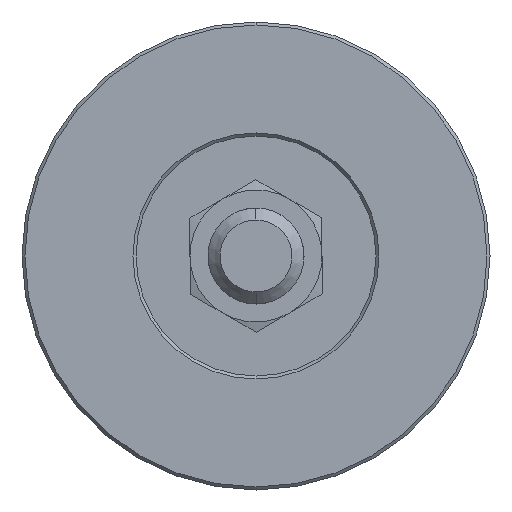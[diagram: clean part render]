
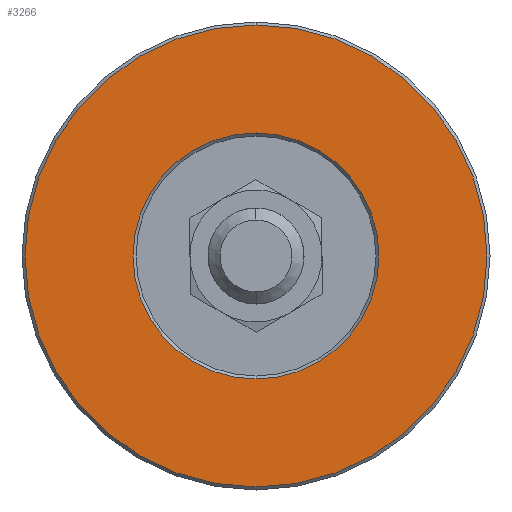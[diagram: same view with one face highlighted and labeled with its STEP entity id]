
A CAD part, front view. The second image highlights one B-rep face of the part: STEP entity #3266.
In plain terms, the highlighted planar face has unit normal (0, -1, 0).
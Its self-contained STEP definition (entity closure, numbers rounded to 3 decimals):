
#80 = EDGE_CURVE ( 'NONE', #1400, #8282, #7036, .T. ) ;
#279 = CIRCLE ( 'NONE', #2405, 20.5 ) ;
#761 = VERTEX_POINT ( 'NONE', #5279 ) ;
#1400 = VERTEX_POINT ( 'NONE', #5213 ) ;
#2405 = AXIS2_PLACEMENT_3D ( 'NONE', #6998, #3083, #7633 ) ;
#2699 = EDGE_LOOP ( 'NONE', ( #7654, #6759 ) ) ;
#2969 = ORIENTED_EDGE ( 'NONE', *, *, #7788, .T. ) ;
#3083 = DIRECTION ( 'NONE',  ( 0., 1., 0. ) ) ;
#3266 = ADVANCED_FACE ( 'NONE', ( #4326, #7157 ), #3661, .T. ) ;
#3661 = PLANE ( 'NONE',  #8118 ) ;
#3857 = CARTESIAN_POINT ( 'NONE',  ( 0., 0., 0. ) ) ;
#3895 = DIRECTION ( 'NONE',  ( 0., 0., -1. ) ) ;
#4326 = FACE_OUTER_BOUND ( 'NONE', #2699, .T. ) ;
#4377 = DIRECTION ( 'NONE',  ( 0., 1., 0. ) ) ;
#4602 = CARTESIAN_POINT ( 'NONE',  ( 0., 0., 0. ) ) ;
#4968 = CARTESIAN_POINT ( 'NONE',  ( 0., 0., 38.5 ) ) ;
#5013 = EDGE_CURVE ( 'NONE', #761, #6863, #279, .T. ) ;
#5053 = DIRECTION ( 'NONE',  ( 0., -1., 0. ) ) ;
#5213 = CARTESIAN_POINT ( 'NONE',  ( 0., 0., -38.5 ) ) ;
#5228 = DIRECTION ( 'NONE',  ( 0., 0., -1. ) ) ;
#5259 = DIRECTION ( 'NONE',  ( 0., -1., 0. ) ) ;
#5279 = CARTESIAN_POINT ( 'NONE',  ( 0., 0., 20.5 ) ) ;
#6381 = DIRECTION ( 'NONE',  ( 0., 0., -1. ) ) ;
#6759 = ORIENTED_EDGE ( 'NONE', *, *, #80, .T. ) ;
#6774 = CIRCLE ( 'NONE', #6943, 20.5 ) ;
#6863 = VERTEX_POINT ( 'NONE', #7435 ) ;
#6943 = AXIS2_PLACEMENT_3D ( 'NONE', #8336, #4377, #7625 ) ;
#6998 = CARTESIAN_POINT ( 'NONE',  ( 0., 0., 0. ) ) ;
#7036 = CIRCLE ( 'NONE', #7338, 38.5 ) ;
#7157 = FACE_BOUND ( 'NONE', #7552, .T. ) ;
#7338 = AXIS2_PLACEMENT_3D ( 'NONE', #3857, #5053, #6381 ) ;
#7420 = AXIS2_PLACEMENT_3D ( 'NONE', #4602, #5259, #5228 ) ;
#7435 = CARTESIAN_POINT ( 'NONE',  ( 0., 0., -20.5 ) ) ;
#7552 = EDGE_LOOP ( 'NONE', ( #2969, #8365 ) ) ;
#7625 = DIRECTION ( 'NONE',  ( 0., 0., -1. ) ) ;
#7633 = DIRECTION ( 'NONE',  ( 0., 0., -1. ) ) ;
#7654 = ORIENTED_EDGE ( 'NONE', *, *, #7899, .T. ) ;
#7697 = CARTESIAN_POINT ( 'NONE',  ( 20., 0., 0. ) ) ;
#7788 = EDGE_CURVE ( 'NONE', #6863, #761, #6774, .T. ) ;
#7899 = EDGE_CURVE ( 'NONE', #8282, #1400, #8177, .T. ) ;
#8118 = AXIS2_PLACEMENT_3D ( 'NONE', #7697, #8329, #3895 ) ;
#8177 = CIRCLE ( 'NONE', #7420, 38.5 ) ;
#8282 = VERTEX_POINT ( 'NONE', #4968 ) ;
#8329 = DIRECTION ( 'NONE',  ( 0., -1., 0. ) ) ;
#8336 = CARTESIAN_POINT ( 'NONE',  ( 0., 0., 0. ) ) ;
#8365 = ORIENTED_EDGE ( 'NONE', *, *, #5013, .T. ) ;
